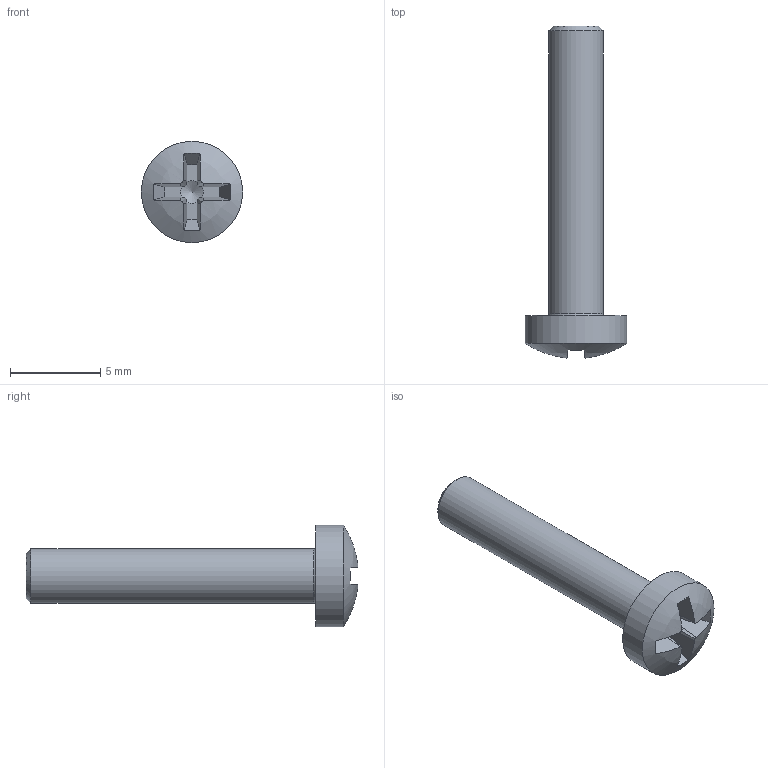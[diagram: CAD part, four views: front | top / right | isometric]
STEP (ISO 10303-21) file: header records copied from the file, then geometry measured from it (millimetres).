
FILE_DESCRIPTION(/* description */ ('STEP AP242 Edition 2','CAx-IF Rec.Pracs.---Representation and Presentation of Product Manufacturing Information (PMI)---4.0---2014-10-13','CAx-IF Rec.Pracs.---3D Tessellated Geometry---0.4---2014-09-14','2;1','CAx-IF Rec.Pracs.---User Defined Attributes---1.5---2016-08-15'),/* implementation_level */ '2;1');
FILE_NAME(/* name */ 'Final Build - M3x16 (MKS) (1)',/* time_stamp */ '2026-08-31T23:26:14Z',/* author */ (''),/* organization */ (''),/* preprocessor_version */ 'ST-DEVELOPER v20',/* originating_system */ 'ONSHAPE BY PTC INC, 1.220',/* authorisation */ ' ');
FILE_SCHEMA (('AP242_MANAGED_MODEL_BASED_3D_ENGINEERING_MIM_LF { 1 0 10303 442 3 1 4 }'));
Length unit declared in the file: metre
Products named in the file (1): M3x16 (MKS)
Bounding box: 5.6 x 18.35 x 5.6 mm (x, y, z)
Volume: 153 mm3; surface area: 246.1 mm2
Topology: 1 solids, 1 shells, 32 faces, 88 edges, 58 vertices
Faces by surface type: plane 26, cylinder 2, cone 2, sphere 1, torus 1
Full cylindrical faces by diameter (mm): 3 x1, 5.6 x1
Entity records: 994 total; most frequent: CARTESIAN_POINT 190, DIRECTION 166, ORIENTED_EDGE 156, EDGE_CURVE 78, AXIS2_PLACEMENT_3D 63, VERTEX_POINT 55, LINE 40, VECTOR 40
